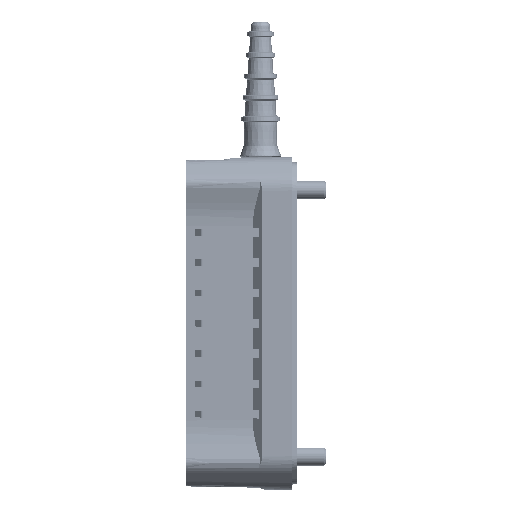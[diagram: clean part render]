
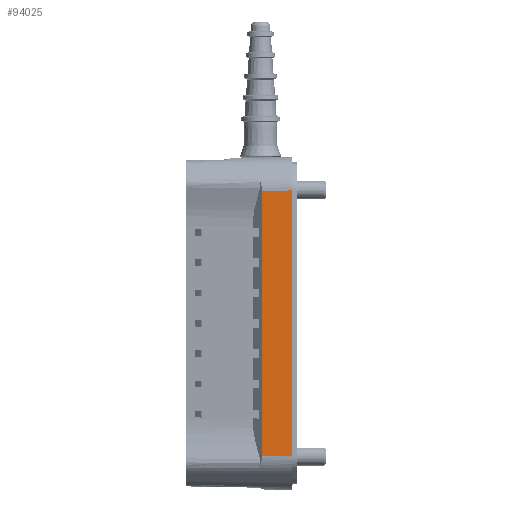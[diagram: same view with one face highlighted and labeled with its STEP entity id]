
A CAD part, left-side view. The second image highlights one B-rep face of the part: STEP entity #94025.
In plain terms, the highlighted planar face has unit normal (-1, 0.018, 0).
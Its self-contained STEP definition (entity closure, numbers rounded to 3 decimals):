
#787 = LINE ( 'NONE', #127097, #55737 ) ;
#7504 = DIRECTION ( 'NONE',  ( -1., 0.017, 0. ) ) ;
#19520 = FACE_OUTER_BOUND ( 'NONE', #41799, .T. ) ;
#26039 = LINE ( 'NONE', #155237, #105977 ) ;
#39634 = EDGE_CURVE ( 'NONE', #90050, #59445, #225702, .T. ) ;
#41799 = EDGE_LOOP ( 'NONE', ( #193455, #215692, #59952, #220370 ) ) ;
#55737 = VECTOR ( 'NONE', #217219, 1000. ) ;
#55934 = DIRECTION ( 'NONE',  ( 0.017, 1., -0.007 ) ) ;
#59395 = EDGE_CURVE ( 'NONE', #166870, #90050, #787, .T. ) ;
#59445 = VERTEX_POINT ( 'NONE', #184814 ) ;
#59952 = ORIENTED_EDGE ( 'NONE', *, *, #212551, .F. ) ;
#62137 = CARTESIAN_POINT ( 'NONE',  ( -75., 0., -47.142 ) ) ;
#74761 = VERTEX_POINT ( 'NONE', #216310 ) ;
#76109 = CARTESIAN_POINT ( 'NONE',  ( -74.825, 10., -43.757 ) ) ;
#77540 = DIRECTION ( 'NONE',  ( -0.017, -1., 0. ) ) ;
#80436 = LINE ( 'NONE', #196083, #102517 ) ;
#90050 = VERTEX_POINT ( 'NONE', #153385 ) ;
#94025 = ADVANCED_FACE ( 'NONE', ( #19520 ), #147597, .T. ) ;
#102517 = VECTOR ( 'NONE', #55934, 1000. ) ;
#105977 = VECTOR ( 'NONE', #173699, 1000. ) ;
#127097 = CARTESIAN_POINT ( 'NONE',  ( -75., -0.024, -43.829 ) ) ;
#128058 = CARTESIAN_POINT ( 'NONE',  ( -75., 0., -47.142 ) ) ;
#130126 = EDGE_CURVE ( 'NONE', #59445, #74761, #80436, .T. ) ;
#147597 = PLANE ( 'NONE',  #206142 ) ;
#153385 = CARTESIAN_POINT ( 'NONE',  ( -75., 0., -43.829 ) ) ;
#155237 = CARTESIAN_POINT ( 'NONE',  ( -74.825, 10., -47.142 ) ) ;
#166870 = VERTEX_POINT ( 'NONE', #76109 ) ;
#173699 = DIRECTION ( 'NONE',  ( 0., 0., 1. ) ) ;
#184814 = CARTESIAN_POINT ( 'NONE',  ( -75., 0., 43.829 ) ) ;
#189856 = VECTOR ( 'NONE', #200415, 1000. ) ;
#193455 = ORIENTED_EDGE ( 'NONE', *, *, #39634, .T. ) ;
#196083 = CARTESIAN_POINT ( 'NONE',  ( -74.989, 0.657, 43.824 ) ) ;
#200415 = DIRECTION ( 'NONE',  ( 0., 0., 1. ) ) ;
#206142 = AXIS2_PLACEMENT_3D ( 'NONE', #62137, #7504, #77540 ) ;
#212551 = EDGE_CURVE ( 'NONE', #166870, #74761, #26039, .T. ) ;
#215692 = ORIENTED_EDGE ( 'NONE', *, *, #130126, .T. ) ;
#216310 = CARTESIAN_POINT ( 'NONE',  ( -74.825, 10., 43.757 ) ) ;
#217219 = DIRECTION ( 'NONE',  ( -0.017, -1., -0.007 ) ) ;
#220370 = ORIENTED_EDGE ( 'NONE', *, *, #59395, .T. ) ;
#225702 = LINE ( 'NONE', #128058, #189856 ) ;
